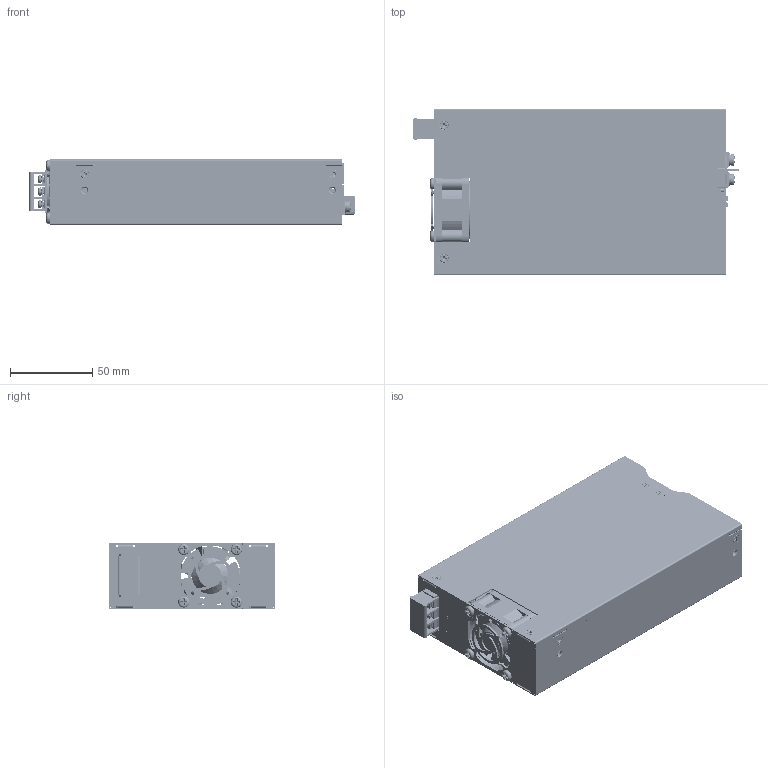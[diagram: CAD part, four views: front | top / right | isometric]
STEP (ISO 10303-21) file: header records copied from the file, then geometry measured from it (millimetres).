
FILE_DESCRIPTION (( 'STEP AP214' ), '1' );
FILE_NAME ('PMS-24V750W1BTD 2024.STEP', '2024-05-16T03:17:56', ( '' ), ( '' ), 'SwSTEP 2.0', 'SolidWorks 2020', '' );
FILE_SCHEMA (( 'AUTOMOTIVE_DESIGN' ));
Length unit declared in the file: millimetre
Products named in the file (568): irssop4_1; C637_1; R619_1; irsod323; C648_1; R416; R2; R613_1; case up; R454; R148; R84; irso8; R626_1; CASE_1_1; R135; Q403; R689_1; R679_1; R600_1; R160; R29; R653_1; 3105461100_FOR_AC_1_1; Q153; R663_1; D600_1; R427; R466; Q604_1; R439; R163; R65; IC607_1; 1206c; R696_1; LC-SA2076R0C01; R482; R44; R636_1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
Assembly tree (1037 placements, depth 6):
  PMS-24V750W1BTD 2024
    PMS-24V750W1BTDR0C0
      Board-2
      VR131
        MVR3296X
      C198
        0603c
      R246
        0603r
      R110
        0603r
      RL1
        mrl-hf115fa-8p
      C22
        1206c
      R215
        0805r
      C351
        1206c
      C350
        1206c
      C349
        1206c
      C348
        1206c
      D62
        irsod323
      R11
        1206r
      R222
        0805r
      R218
        0603r
      R216
        0603r
      R162
        0603r
      IC33
        irsot23-ic-igo
      ZD408
        irsod323
      ZD404
        irsod323
      ZD403
        irsod323
      ZD133
        irsod323
      ZD45
        irsod323
      ZD44
        irsod323
      ZD43
        irsod323
      ZD42
        irsod323
      ZD41
        irsod323
      ZD38
        irsod323
      ZD37
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Bounding box: 198.3 x 101.6 x 40.25 mm (x, y, z)
Volume: 16065 mm3; surface area: 184673.6 mm2
Topology: 10 solids, 18204 shells, 18820 faces, 87700 edges, 84974 vertices
Faces by surface type: plane 10470, cylinder 6250, bspline 1885, torus 104, cone 99, sphere 12
Full cylindrical faces by diameter (mm): 0.175 x2, 0.8 x6, 0.9 x71, 1 x37, 1.1 x25, 1.2 x27, 1.3 x2, 1.4 x7, 1.5 x6, 1.562 x4, 1.6 x6, 1.7 x3, 2 x2, 2.459 x2, 2.5 x22, 2.6 x2, 2.8 x4, 3 x27, 3.2 x6, 3.3 x8, 3.5 x8, 3.505 x4, 3.6 x8, 3.7 x5, 4 x17, 4.1 x8, 4.2 x8, 4.4 x2, 4.45 x4, 4.7 x8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
Entity records: 426675 total; most frequent: CARTESIAN_POINT 156052, DIRECTION 40860, ORIENTED_EDGE 28866, EDGE_CURVE 27523, VERTEX_POINT 26987, LINE 20014, VECTOR 20014, AXIS2_PLACEMENT_3D 10423
